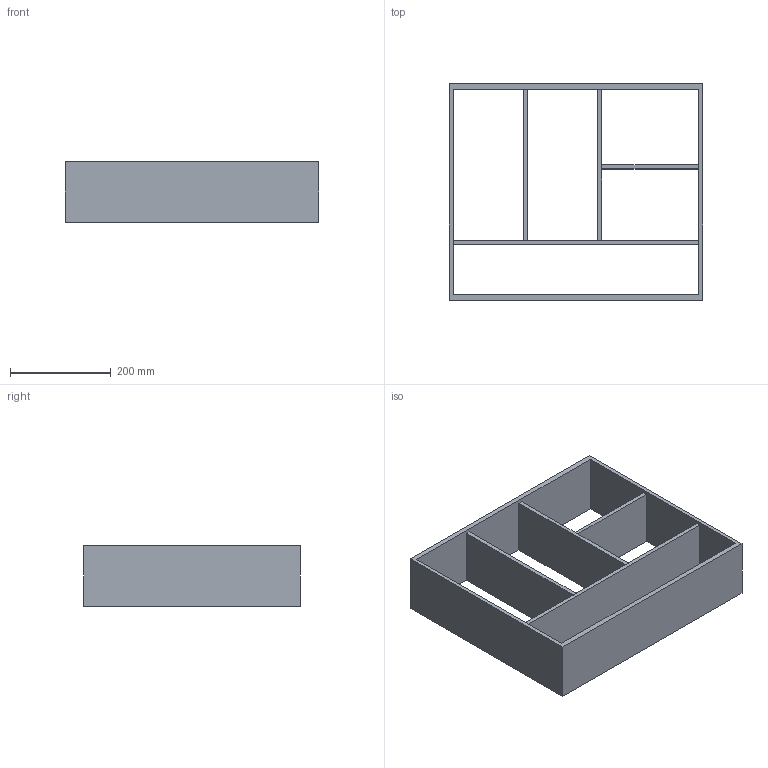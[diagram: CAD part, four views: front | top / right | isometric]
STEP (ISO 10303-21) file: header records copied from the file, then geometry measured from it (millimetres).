
FILE_DESCRIPTION (( 'STEP AP214' ), '1' );
FILE_NAME ('Vario Multi H120 NL450_B600_19 mm_Alu-Buche.step', '2010-10-08T09:47:28', ( 'grass' ), ( '' ), 'SwSTEP 2.0', 'SolidWorks 2010', '' );
FILE_SCHEMA (( 'AUTOMOTIVE_DESIGN' ));
Length unit declared in the file: millimetre
Products named in the file (1): Vario Multi H120 NL450_B600_19 mm_Alu-Buche
Bounding box: 502 x 429 x 120 mm (x, y, z)
Volume: 3271629.7 mm3; surface area: 777247.1 mm2
Topology: 1 solids, 1 shells, 29 faces, 80 edges, 52 vertices
Faces by surface type: plane 29
Entity records: 956 total; most frequent: CARTESIAN_POINT 162, ORIENTED_EDGE 160, DIRECTION 140, EDGE_CURVE 80, VECTOR 80, LINE 80, VERTEX_POINT 52, EDGE_LOOP 38
